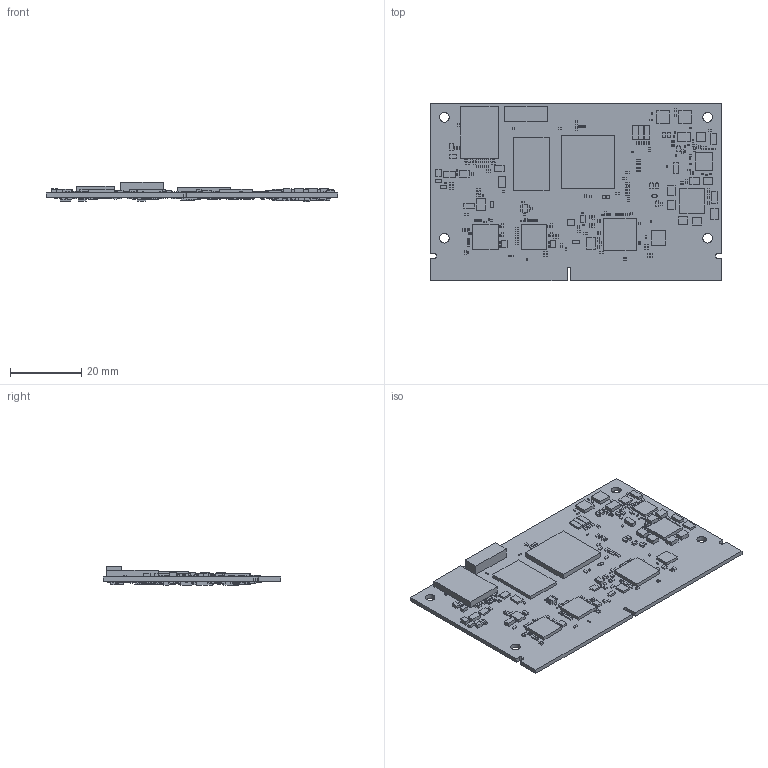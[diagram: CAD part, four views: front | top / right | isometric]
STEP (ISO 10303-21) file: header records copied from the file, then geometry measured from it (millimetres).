
FILE_DESCRIPTION(/* description */ (''),/* implementation_level */ '2;1');
FILE_NAME(/* name */ 'SMARC-8MP-V1.1.step',/* time_stamp */ '2026-08-27T01:47:24+03:00',/* author */ (''),/* organization */ (''),/* preprocessor_version */ 'ST-DEVELOPER v20.1',/* originating_system */ 'Autodesk Translation Framework v15.8.0.0',/* authorisation */ '');
FILE_SCHEMA (('AUTOMOTIVE_DESIGN { 1 0 10303 214 3 1 1 }'));
Products named in the file (647): SMARC-8MP-V1.1; Pcb; Electrical; Y2; Y4; L3; L2; L4; L7; L6; L8; QZ1; QZ2; TP5; TP7; TP6; U11; RN1; RN5; RN11; RN20; U14; RN9; RN8; RN7; Q4; Q7; U4; U5; C91; C131; C133; C70; C130; C78; C79; C125; C134; C108; C75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
Assembly tree (646 placements, depth 3):
  SMARC-8MP-V1.1
    Pcb
    Electrical
      Y2
      Y4
      L3
      L2
      L4
      L7
      L6
      L8
      QZ1
      QZ2
      TP5
      TP7
      TP6
      U11
      RN1
      RN5
      RN11
      RN20
      U14
      RN9
      RN8
      RN7
      Q4
      Q7
      U4
      U5
      C91
      C131
      C133
      C70
      C130
      C78
      C79
      C125
      C134
      C108
      C75
      C123
      C129
      C69
      C127
      C128
      C77
      C66
      C135
      C118
      C63
      C97
      C73
      C113
      C119
      C60
      C65
      C95
      C62
      C71
      C99
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Bounding box: 82 x 50 x 5.35 mm (x, y, z)
Volume: 6571.2 mm3; surface area: 13259.2 mm2
Topology: 644 solids, 644 shells, 4043 faces, 8265 edges, 5510 vertices
Faces by surface type: plane 4031, cylinder 12
Full cylindrical faces by diameter (mm): 1.006 x3, 2.7 x4
Entity records: 124596 total; most frequent: CARTESIAN_POINT 19111, DIRECTION 18961, ORIENTED_EDGE 16530, EDGE_CURVE 8265, LINE 8241, VECTOR 8241, VERTEX_POINT 5510, AXIS2_PLACEMENT_3D 5360
